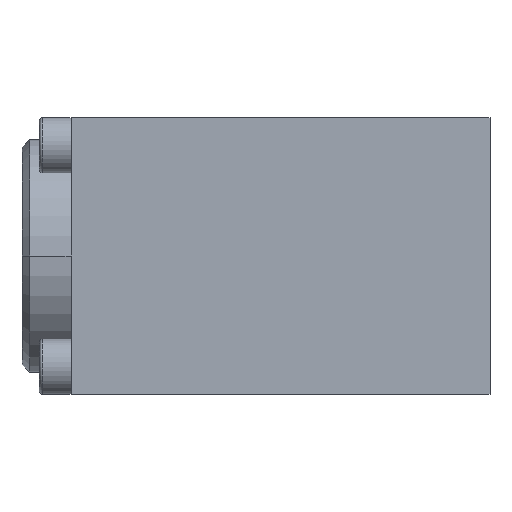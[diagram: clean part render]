
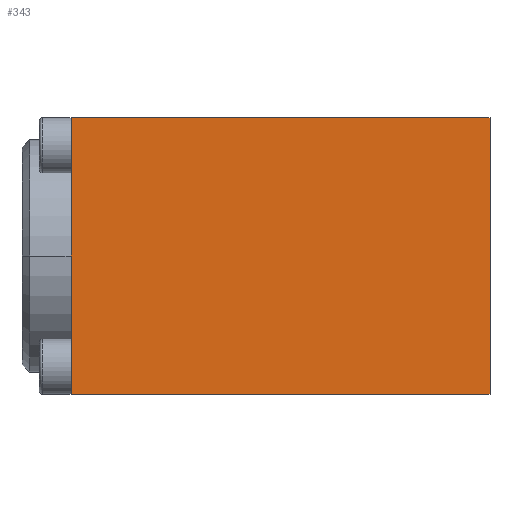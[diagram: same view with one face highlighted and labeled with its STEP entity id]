
A CAD part, front view. The second image highlights one B-rep face of the part: STEP entity #343.
In plain terms, the highlighted planar face has unit normal (0, -1, 0).
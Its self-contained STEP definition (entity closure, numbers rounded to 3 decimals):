
#115 = FACE_OUTER_BOUND ( 'NONE', #1724, .T. ) ;
#123 = AXIS2_PLACEMENT_3D ( 'NONE', #2812, #2813, #2814 ) ;
#294 = VERTEX_POINT ( 'NONE', #2712 ) ;
#295 = VERTEX_POINT ( 'NONE', #2713 ) ;
#296 = VERTEX_POINT ( 'NONE', #2714 ) ;
#297 = VERTEX_POINT ( 'NONE', #2715 ) ;
#343 = ADVANCED_FACE ( 'NONE', ( #115 ), #2811, .T. ) ;
#502 = EDGE_CURVE ( 'NONE', #294, #295, #3102, .T. ) ;
#504 = EDGE_CURVE ( 'NONE', #295, #296, #3108, .T. ) ;
#578 = EDGE_CURVE ( 'NONE', #296, #297, #3114, .T. ) ;
#580 = EDGE_CURVE ( 'NONE', #297, #294, #3120, .T. ) ;
#618 = ORIENTED_EDGE ( 'NONE', *, *, #504, .T. ) ;
#619 = ORIENTED_EDGE ( 'NONE', *, *, #578, .T. ) ;
#620 = ORIENTED_EDGE ( 'NONE', *, *, #580, .T. ) ;
#621 = ORIENTED_EDGE ( 'NONE', *, *, #502, .T. ) ;
#1724 = EDGE_LOOP ( 'NONE', ( #619, #620, #621, #618 ) ) ;
#2712 = CARTESIAN_POINT ( 'NONE',  ( 59.2, -17.5, -17.5 ) ) ;
#2713 = CARTESIAN_POINT ( 'NONE',  ( 59.2, -17.5, 17.5 ) ) ;
#2714 = CARTESIAN_POINT ( 'NONE',  ( 6.2, -17.5, 17.5 ) ) ;
#2715 = CARTESIAN_POINT ( 'NONE',  ( 6.2, -17.5, -17.5 ) ) ;
#2811 = PLANE ( 'NONE',  #123 ) ;
#2812 = CARTESIAN_POINT ( 'NONE',  ( 59.2, -17.5, -17.5 ) ) ;
#2813 = DIRECTION ( 'NONE',  ( 0., -1., 0. ) ) ;
#2814 = DIRECTION ( 'NONE',  ( -1., 0., 0. ) ) ;
#3102 = LINE ( 'NONE', #3103, #3216 ) ;
#3103 = CARTESIAN_POINT ( 'NONE',  ( 59.2, -17.5, -17.5 ) ) ;
#3104 = DIRECTION ( 'NONE',  ( 0., 0., 1. ) ) ;
#3108 = LINE ( 'NONE', #3109, #3219 ) ;
#3109 = CARTESIAN_POINT ( 'NONE',  ( 59.2, -17.5, 17.5 ) ) ;
#3110 = DIRECTION ( 'NONE',  ( -1., 0., 0. ) ) ;
#3114 = LINE ( 'NONE', #3115, #3221 ) ;
#3115 = CARTESIAN_POINT ( 'NONE',  ( 6.2, -17.5, -17.5 ) ) ;
#3116 = DIRECTION ( 'NONE',  ( 0., 0., -1. ) ) ;
#3120 = LINE ( 'NONE', #3121, #3224 ) ;
#3121 = CARTESIAN_POINT ( 'NONE',  ( 59.2, -17.5, -17.5 ) ) ;
#3122 = DIRECTION ( 'NONE',  ( 1., 0., 0. ) ) ;
#3216 = VECTOR ( 'NONE', #3104, 1000. ) ;
#3219 = VECTOR ( 'NONE', #3110, 1000. ) ;
#3221 = VECTOR ( 'NONE', #3116, 1000. ) ;
#3224 = VECTOR ( 'NONE', #3122, 1000. ) ;
